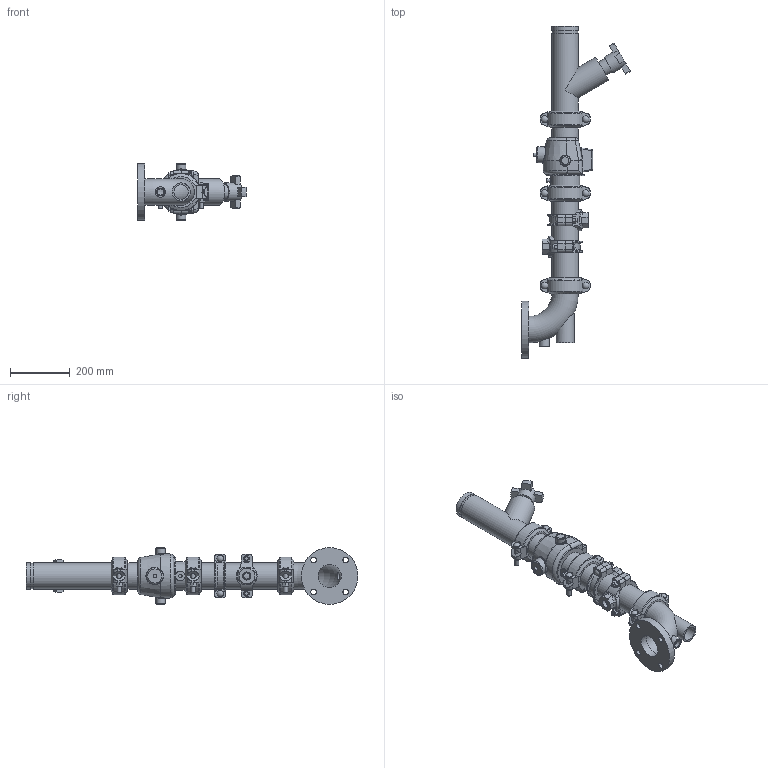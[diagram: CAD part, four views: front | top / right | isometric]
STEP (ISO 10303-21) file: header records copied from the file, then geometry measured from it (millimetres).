
FILE_DESCRIPTION(/* description */ ('VIC DVI PUMP DROP HORZ S/383 (OGSxFLG)','CAx-IF Rec.Pracs.---Representation and Presentation of Product Manufacturing Information (PMI)---4.0---2014-10-13'),/* implementation_level */ '2;1');
FILE_NAME(/* name */ 'C:\Users\Vjadhav\AppData\Roaming\Autodesk\ApplicationPlugins\Victaulic.Temp\A892\Victaulic_IPS_Horizontal DVI_CL 150_Series 383 (OGSxFLG)_03.0x03.0 (80x80).stp',/* time_stamp */ '2022-02-28T15:42:20+05:00',/* author */ ('kkamble'),/* organization */ ('Victaulic'),/* preprocessor_version */ 'ST-DEVELOPER v17.2',/* originating_system */ 'Autodesk Inventor 2019',/* authorisation */ '');
FILE_SCHEMA (('AP242_MANAGED_MODEL_BASED_3D_ENGINEERING_MIM_LF { 1 0 10303 442 1 1 4 }'));
Length unit declared in the file: inch
Products named in the file (9): 383-03.0x03.0; Pipe-03.0x03.0; 716H-03.0; 789-03.0; 177N-03.0; 920NT-03.0x0.75; 920N LOWER HSG-03.0; 920NT-03.0x0.75_1; 100F-03.0
Assembly tree (11 placements, depth 3):
  383-03.0x03.0
    177N-03.0  x3
    Pipe-03.0x03.0
    716H-03.0
    789-03.0
    920NT-03.0x0.75  x2
      920N LOWER HSG-03.0
      920NT-03.0x0.75_1
    100F-03.0
Bounding box: 365.25 x 1116.01 x 190.5 mm (x, y, z)
Volume: 6034699.9 mm3; surface area: 1116394.4 mm2
Topology: 11 solids, 11 shells, 694 faces, 1831 edges, 1207 vertices
Faces by surface type: plane 346, cylinder 246, torus 38, bspline 35, sphere 16, cone 13
Full cylindrical faces by diameter (mm): 11.43 x2, 12.7 x8, 14.605 x6, 19.05 x4, 20.93 x3, 21.982 x4, 22.225 x6, 26.67 x2, 26.924 x2, 31.75 x2, 32.004 x1, 34.29 x1, 48.26 x1, 50.8 x1, 53.975 x1, 60.96 x2, 76.2 x3, 77.927 x4, 80.772 x1, 84.938 x7, 88.9 x18, 97.028 x1, 127 x1, 190.5 x1
Entity records: 14629 total; most frequent: CARTESIAN_POINT 4075, DIRECTION 2111, ORIENTED_EDGE 2028, EDGE_CURVE 1014, AXIS2_PLACEMENT_3D 823, VERTEX_POINT 667, EDGE_LOOP 466, LINE 465
